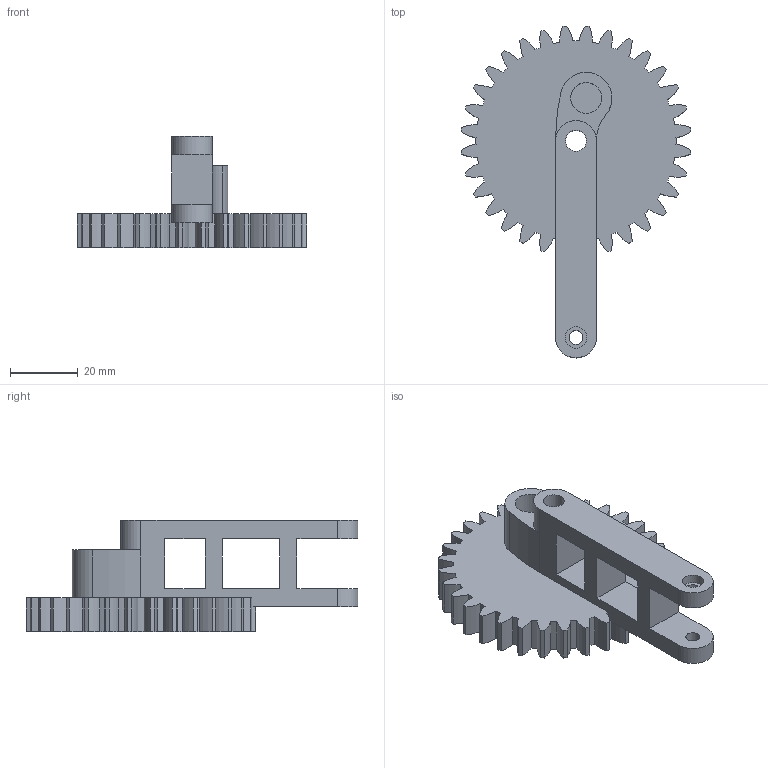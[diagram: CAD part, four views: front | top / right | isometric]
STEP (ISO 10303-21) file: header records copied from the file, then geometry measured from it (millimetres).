
FILE_DESCRIPTION (( 'STEP AP214' ), '1' );
FILE_NAME ('right-outer-link-and-gear.step', '2026-11-14T03:54:50', ( '' ), ( '' ), 'SwSTEP 2.0', 'SolidWorks 2024', '' );
FILE_SCHEMA (( 'AUTOMOTIVE_DESIGN' ));
Length unit declared in the file: millimetre
Products named in the file (1): right-outer-link-and-gear
Bounding box: 67.78 x 97.89 x 32.8 mm (x, y, z)
Volume: 43645.2 mm3; surface area: 16804.3 mm2
Topology: 1 solids, 1 shells, 168 faces, 485 edges, 323 vertices
Faces by surface type: cylinder 140, plane 28
Full cylindrical faces by diameter (mm): 4.1 x2, 6.16 x1, 6.3 x1, 7 x1, 9.16 x1
Entity records: 5687 total; most frequent: DIRECTION 1098, CARTESIAN_POINT 969, ORIENTED_EDGE 956, EDGE_CURVE 478, AXIS2_PLACEMENT_3D 451, VERTEX_POINT 322, CIRCLE 282, LINE 196
